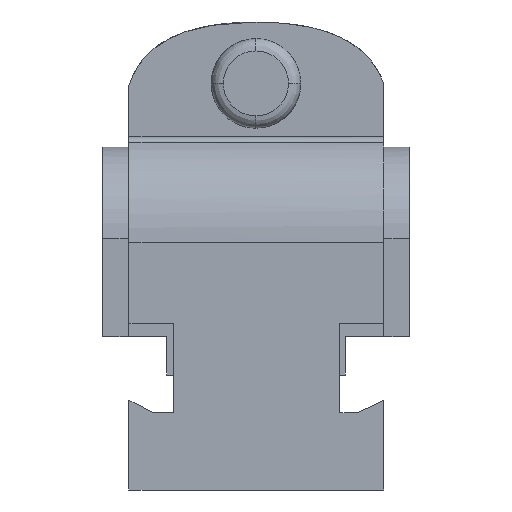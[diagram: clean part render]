
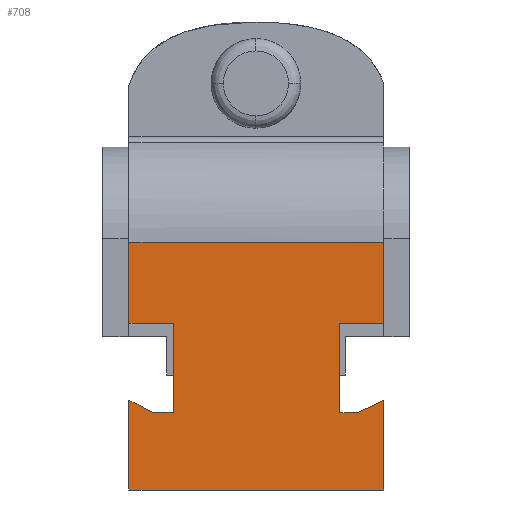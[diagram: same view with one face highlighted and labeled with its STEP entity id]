
A CAD part, left-side view. The second image highlights one B-rep face of the part: STEP entity #708.
In plain terms, the highlighted planar face has unit normal (-1, 0, 0).
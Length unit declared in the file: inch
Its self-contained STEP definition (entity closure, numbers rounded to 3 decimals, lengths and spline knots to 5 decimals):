
#616=EDGE_CURVE('',#1744,#1745,#1746,.T.);
#634=EDGE_CURVE('',#1722,#1778,#1779,.T.);
#662=EDGE_CURVE('',#1827,#1828,#1829,.T.);
#708=ADVANCED_FACE('',(#1905),#1906,.T.);
#724=EDGE_CURVE('',#1778,#1744,#1931,.T.);
#750=EDGE_CURVE('',#1827,#1973,#1974,.T.);
#774=EDGE_CURVE('',#2016,#2017,#2018,.T.);
#912=EDGE_CURVE('',#2017,#1828,#2233,.T.);
#978=EDGE_CURVE('',#1973,#2332,#2333,.T.);
#998=EDGE_CURVE('',#1745,#2016,#2359,.T.);
#1052=EDGE_CURVE('',#2438,#2439,#2440,.T.);
#1056=EDGE_CURVE('',#2086,#1722,#2445,.T.);
#1068=EDGE_CURVE('',#2439,#2459,#2460,.T.);
#1214=EDGE_CURVE('',#2332,#2438,#2647,.T.);
#1458=EDGE_CURVE('',#2459,#2086,#2943,.T.);
#1722=VERTEX_POINT('',#3256);
#1744=VERTEX_POINT('',#3288);
#1745=VERTEX_POINT('',#3289);
#1746=LINE('',#3290,#3291);
#1778=VERTEX_POINT('',#3346);
#1779=LINE('',#3347,#3348);
#1827=VERTEX_POINT('',#3421);
#1828=VERTEX_POINT('',#3422);
#1829=LINE('',#3423,#3424);
#1905=FACE_OUTER_BOUND('',#3553,.T.);
#1906=PLANE('',#3554);
#1931=LINE('',#3600,#3601);
#1973=VERTEX_POINT('',#3680);
#1974=LINE('',#3681,#3682);
#2016=VERTEX_POINT('',#3763);
#2017=VERTEX_POINT('',#3764);
#2018=LINE('',#3765,#3766);
#2086=VERTEX_POINT('',#3885);
#2233=LINE('',#4115,#4116);
#2332=VERTEX_POINT('',#4309);
#2333=LINE('',#4310,#4311);
#2359=LINE('',#4362,#4363);
#2438=VERTEX_POINT('',#4607);
#2439=VERTEX_POINT('',#4608);
#2440=LINE('',#4609,#4610);
#2445=LINE('',#4620,#4621);
#2459=VERTEX_POINT('',#4648);
#2460=LINE('',#4649,#4650);
#2647=LINE('',#5041,#5042);
#2943=LINE('',#5634,#5635);
#3256=CARTESIAN_POINT('',(0.,0.0,0.));
#3288=CARTESIAN_POINT('',(0.,0.12731,0.37748));
#3289=CARTESIAN_POINT('',(0.,0.21527,0.37748));
#3290=CARTESIAN_POINT('',(0.,0.71064,0.37748));
#3291=VECTOR('',#6363,1.0);
#3346=CARTESIAN_POINT('',(0.,0.0,0.43823));
#3347=CARTESIAN_POINT('',(0.,0.0,0.));
#3348=VECTOR('',#6378,1.0);
#3421=CARTESIAN_POINT('',(0.,1.24627,1.21246));
#3422=CARTESIAN_POINT('',(0.,0.0,1.21246));
#3423=CARTESIAN_POINT('',(0.,1.25,1.21246));
#3424=VECTOR('',#6417,1.0);
#3553=EDGE_LOOP('',(#6489,#6490,#6491,#6492,#6493,#6494,#6495,#6496,#6497,#6498,#6499,#6500,#6501,#6502));
#3554=AXIS2_PLACEMENT_3D('',#6503,#6504,#6505);
#3600=CARTESIAN_POINT('',(0.,0.50733,0.19614));
#3601=VECTOR('',#6529,1.0);
#3680=CARTESIAN_POINT('',(0.,1.24627,0.81498));
#3681=CARTESIAN_POINT('',(0.,1.24627,1.00129));
#3682=VECTOR('',#6555,1.0);
#3763=CARTESIAN_POINT('',(0.,0.21527,0.81498));
#3764=CARTESIAN_POINT('',(0.,0.0,0.81498));
#3765=CARTESIAN_POINT('',(0.,0.67788,0.81498));
#3766=VECTOR('',#6574,1.0);
#3885=CARTESIAN_POINT('',(0.,1.24627,0.));
#4115=CARTESIAN_POINT('',(0.,0.0,0.));
#4116=VECTOR('',#6807,1.0);
#4309=CARTESIAN_POINT('',(0.,1.02777,0.81498));
#4310=CARTESIAN_POINT('',(0.,1.19351,0.81498));
#4311=VECTOR('',#6892,1.0);
#4362=CARTESIAN_POINT('',(0.,0.21527,0.60123));
#4363=VECTOR('',#6927,1.0);
#4607=CARTESIAN_POINT('',(0.,1.02777,0.37748));
#4608=CARTESIAN_POINT('',(0.,1.12731,0.37748));
#4609=CARTESIAN_POINT('',(0.,1.16377,0.37748));
#4610=VECTOR('',#7038,1.0);
#4620=CARTESIAN_POINT('',(0.,1.25,0.));
#4621=VECTOR('',#7039,1.0);
#4648=CARTESIAN_POINT('',(0.,1.24627,0.44001));
#4649=CARTESIAN_POINT('',(0.,1.25222,0.44314));
#4650=VECTOR('',#7044,1.);
#5041=CARTESIAN_POINT('',(0.,1.02777,0.60123));
#5042=VECTOR('',#7214,1.0);
#5634=CARTESIAN_POINT('',(0.,1.24627,0.39956));
#5635=VECTOR('',#7565,1.0);
#6363=DIRECTION('',(0.0,1.0,0.0));
#6378=DIRECTION('',(0.0,0.0,1.0));
#6417=DIRECTION('',(0.0,-1.0,0.0));
#6489=ORIENTED_EDGE('',*,*,#1458,.T.);
#6490=ORIENTED_EDGE('',*,*,#1056,.T.);
#6491=ORIENTED_EDGE('',*,*,#634,.T.);
#6492=ORIENTED_EDGE('',*,*,#724,.T.);
#6493=ORIENTED_EDGE('',*,*,#616,.T.);
#6494=ORIENTED_EDGE('',*,*,#998,.T.);
#6495=ORIENTED_EDGE('',*,*,#774,.T.);
#6496=ORIENTED_EDGE('',*,*,#912,.T.);
#6497=ORIENTED_EDGE('',*,*,#662,.F.);
#6498=ORIENTED_EDGE('',*,*,#750,.T.);
#6499=ORIENTED_EDGE('',*,*,#978,.T.);
#6500=ORIENTED_EDGE('',*,*,#1214,.T.);
#6501=ORIENTED_EDGE('',*,*,#1052,.T.);
#6502=ORIENTED_EDGE('',*,*,#1068,.T.);
#6503=CARTESIAN_POINT('',(0.,1.25,0.60623));
#6504=DIRECTION('',(-1.0,0.0,0.0));
#6505=DIRECTION('',(0.0,0.0,-1.0));
#6529=DIRECTION('',(0.0,0.903,-0.431));
#6555=DIRECTION('',(0.0,0.0,-1.0));
#6574=DIRECTION('',(0.0,-1.0,0.0));
#6807=DIRECTION('',(0.0,0.0,1.0));
#6892=DIRECTION('',(0.0,-1.0,0.0));
#6927=DIRECTION('',(0.0,0.0,1.0));
#7038=DIRECTION('',(0.0,1.0,0.0));
#7039=DIRECTION('',(0.0,-1.0,0.0));
#7044=DIRECTION('',(0.0,0.885,0.465));
#7214=DIRECTION('',(0.0,0.0,-1.0));
#7565=DIRECTION('',(0.0,0.0,-1.0));
